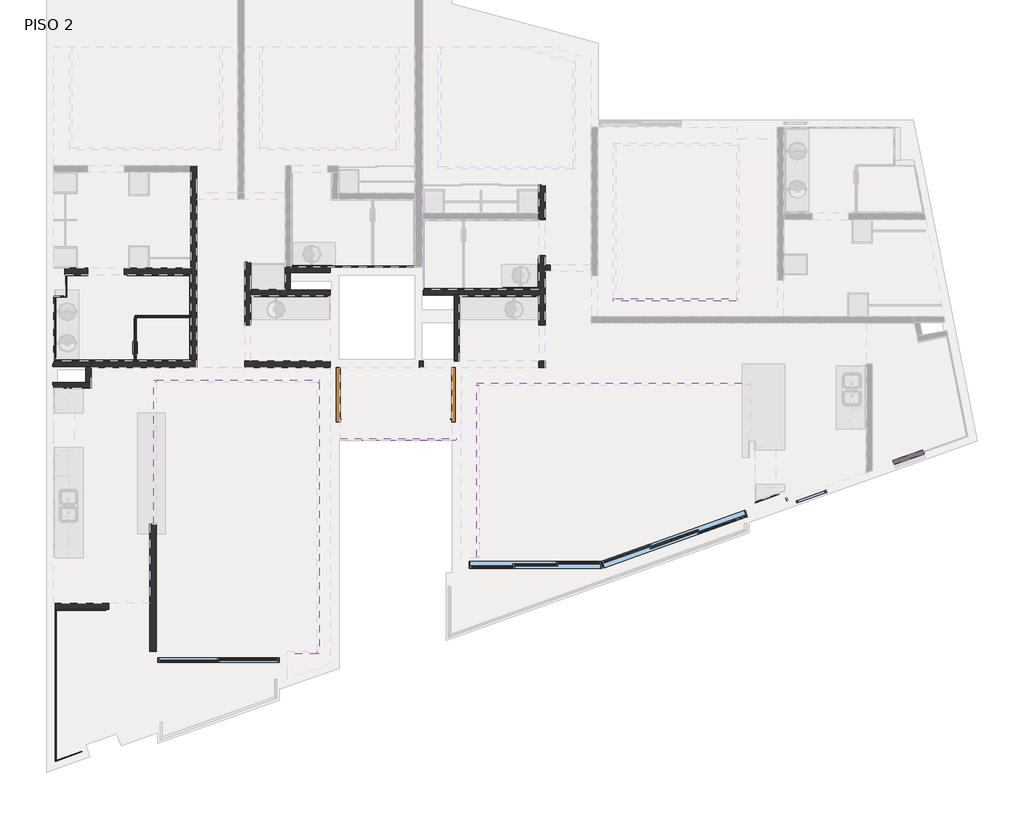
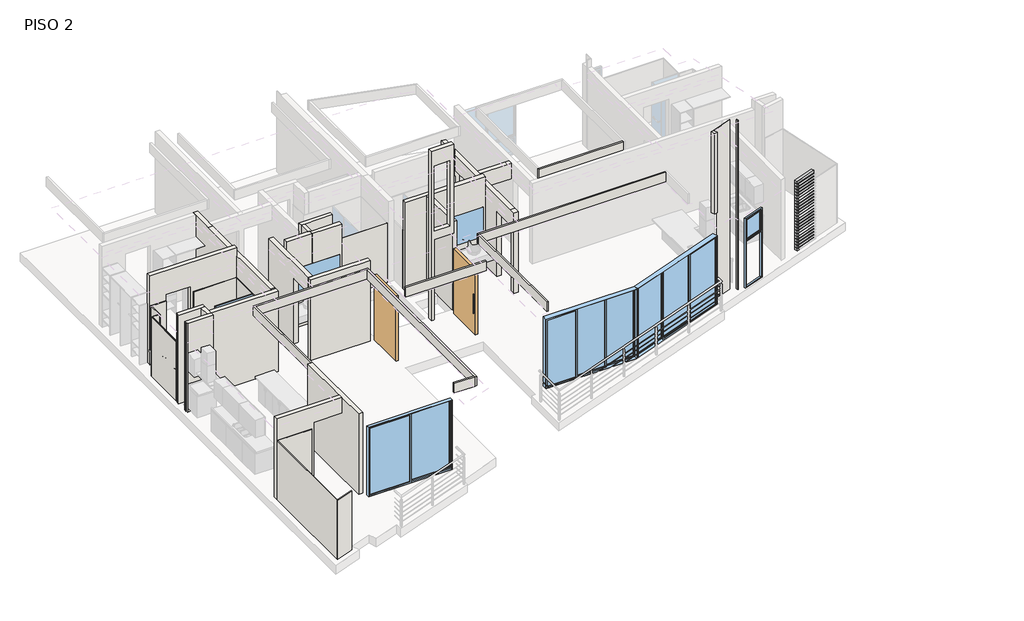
# One storey, part 1 of 3: 45 walls, 24 plates, 11 windows, 2 doors.
"""IFC4 building model written with IfcOpenShell, lengths in millimetres."""

from ifc_helpers import new_model, si_unit, frame, origin, place, context, project, spatial, polyline, outline, extrude, faceted_brep, transform, mapped, element, save
from components import door_120_x_220_cm_1a80d65d, door_120_x_220_cm_c73bc2d5, plate_91745229, window_25a9a49d, window_76b8c877, window_1067b7f7, window_0b8e7a57, window_f6d1640f, window_47e7c2ce, window_0ac24249, window_d0941a12, window_84fe70d5, window_a27440a6, window_0328c900

model = new_model("IFC4")

# Units and contexts
model_context = context("Model", 3, world=origin())
ifc_project = project(units=[si_unit("LENGTHUNIT", "METRE", prefix="MILLI")], contexts=[model_context])

# Site, building, storey
site = spatial("IfcSite", under=ifc_project)
building = spatial("IfcBuilding", under=site)
storey = spatial("IfcBuildingStorey", under=building, Name="PISO 2", Elevation=6000.0)

# Doors
placement = place(None, origin())
door_120_x_220_cm_shape = door_120_x_220_cm_1a80d65d(model_context)
element("IfcDoor", 1, ObjectType="PUERTA ACCESO_PIVOT : 120 x 220 cm", at=placement, inside=storey, context=model_context, shape_type="MappedRepresentation", body=[
    mapped(door_120_x_220_cm_shape, transform((40339.5059119, 28707.1436004, 6000.0), x_axis=(0.0, 1.0, 0.0), y_axis=(-1.0, 0.0, 0.0), z_axis=(0.0, 0.0, 1.0))),
])
door_120_x_220_cm_2_shape = door_120_x_220_cm_c73bc2d5(model_context)
element("IfcDoor", 2, ObjectType="PUERTA ACCESO_PIVOT : 120 x 220 cm", at=placement, inside=storey, context=model_context, shape_type="MappedRepresentation", body=[
    mapped(door_120_x_220_cm_2_shape, transform((43004.5059119, 28707.1436004, 6000.0), x_axis=(0.0, 1.0, 0.0), y_axis=(-1.0, 0.0, 0.0), z_axis=(0.0, 0.0, 1.0))),
])

# Plates
plate_shape = plate_91745229(model_context)
element("IfcPlate", 3, ObjectType="Panel del sistema vacío : Vacío", at=placement, inside=storey, context=model_context, shape_type="MappedRepresentation", body=[
    mapped(plate_shape, transform((52990.0311866, 27653.021671, 6000.0), x_axis=(0.9419771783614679, 0.3356769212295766, 0.0), y_axis=(-0.3356769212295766, 0.9419771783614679, 0.0), z_axis=(0.0, 0.0, 1.0))),
])
element("IfcPlate", 4, ObjectType="Panel del sistema vacío : Vacío", at=placement, inside=storey, context=model_context, shape_type="MappedRepresentation", body=[
    mapped(plate_shape, transform((52990.0311866, 27653.021671, 6098.5416667), x_axis=(0.9419771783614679, 0.3356769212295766, 0.0), y_axis=(-0.3356769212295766, 0.9419771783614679, 0.0), z_axis=(0.0, 0.0, 1.0))),
])
element("IfcPlate", 5, ObjectType="Panel del sistema vacío : Vacío", at=placement, inside=storey, context=model_context, shape_type="MappedRepresentation", body=[
    mapped(plate_shape, transform((52990.0311866, 27653.021671, 6197.0833333), x_axis=(0.9419771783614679, 0.3356769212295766, 0.0), y_axis=(-0.3356769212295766, 0.9419771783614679, 0.0), z_axis=(0.0, 0.0, 1.0))),
])
element("IfcPlate", 6, ObjectType="Panel del sistema vacío : Vacío", at=placement, inside=storey, context=model_context, shape_type="MappedRepresentation", body=[
    mapped(plate_shape, transform((52990.0311866, 27653.021671, 6295.625), x_axis=(0.9419771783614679, 0.3356769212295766, 0.0), y_axis=(-0.3356769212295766, 0.9419771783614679, 0.0), z_axis=(0.0, 0.0, 1.0))),
])
element("IfcPlate", 7, ObjectType="Panel del sistema vacío : Vacío", at=placement, inside=storey, context=model_context, shape_type="MappedRepresentation", body=[
    mapped(plate_shape, transform((52990.0311866, 27653.021671, 6394.1666667), x_axis=(0.9419771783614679, 0.3356769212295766, 0.0), y_axis=(-0.3356769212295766, 0.9419771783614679, 0.0), z_axis=(0.0, 0.0, 1.0))),
])
element("IfcPlate", 8, ObjectType="Panel del sistema vacío : Vacío", at=placement, inside=storey, context=model_context, shape_type="MappedRepresentation", body=[
    mapped(plate_shape, transform((52990.0311866, 27653.021671, 6492.7083333), x_axis=(0.9419771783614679, 0.3356769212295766, 0.0), y_axis=(-0.3356769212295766, 0.9419771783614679, 0.0), z_axis=(0.0, 0.0, 1.0))),
])
element("IfcPlate", 9, ObjectType="Panel del sistema vacío : Vacío", at=placement, inside=storey, context=model_context, shape_type="MappedRepresentation", body=[
    mapped(plate_shape, transform((52990.0311866, 27653.021671, 6591.25), x_axis=(0.9419771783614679, 0.3356769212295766, 0.0), y_axis=(-0.3356769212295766, 0.9419771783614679, 0.0), z_axis=(0.0, 0.0, 1.0))),
])
element("IfcPlate", 10, ObjectType="Panel del sistema vacío : Vacío", at=placement, inside=storey, context=model_context, shape_type="MappedRepresentation", body=[
    mapped(plate_shape, transform((52990.0311866, 27653.021671, 6689.7916667), x_axis=(0.9419771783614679, 0.3356769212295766, 0.0), y_axis=(-0.3356769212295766, 0.9419771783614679, 0.0), z_axis=(0.0, 0.0, 1.0))),
])
element("IfcPlate", 11, ObjectType="Panel del sistema vacío : Vacío", at=placement, inside=storey, context=model_context, shape_type="MappedRepresentation", body=[
    mapped(plate_shape, transform((52990.0311866, 27653.021671, 6788.3333333), x_axis=(0.9419771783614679, 0.3356769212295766, 0.0), y_axis=(-0.3356769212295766, 0.9419771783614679, 0.0), z_axis=(0.0, 0.0, 1.0))),
])
element("IfcPlate", 12, ObjectType="Panel del sistema vacío : Vacío", at=placement, inside=storey, context=model_context, shape_type="MappedRepresentation", body=[
    mapped(plate_shape, transform((52990.0311866, 27653.021671, 6886.875), x_axis=(0.9419771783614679, 0.3356769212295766, 0.0), y_axis=(-0.3356769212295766, 0.9419771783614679, 0.0), z_axis=(0.0, 0.0, 1.0))),
])
element("IfcPlate", 13, ObjectType="Panel del sistema vacío : Vacío", at=placement, inside=storey, context=model_context, shape_type="MappedRepresentation", body=[
    mapped(plate_shape, transform((52990.0311866, 27653.021671, 6985.4166667), x_axis=(0.9419771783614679, 0.3356769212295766, 0.0), y_axis=(-0.3356769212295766, 0.9419771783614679, 0.0), z_axis=(0.0, 0.0, 1.0))),
])
element("IfcPlate", 14, ObjectType="Panel del sistema vacío : Vacío", at=placement, inside=storey, context=model_context, shape_type="MappedRepresentation", body=[
    mapped(plate_shape, transform((52990.0311866, 27653.021671, 7083.9583333), x_axis=(0.9419771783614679, 0.3356769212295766, 0.0), y_axis=(-0.3356769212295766, 0.9419771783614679, 0.0), z_axis=(0.0, 0.0, 1.0))),
])
element("IfcPlate", 15, ObjectType="Panel del sistema vacío : Vacío", at=placement, inside=storey, context=model_context, shape_type="MappedRepresentation", body=[
    mapped(plate_shape, transform((52990.0311866, 27653.021671, 7182.5), x_axis=(0.9419771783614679, 0.3356769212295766, 0.0), y_axis=(-0.3356769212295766, 0.9419771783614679, 0.0), z_axis=(0.0, 0.0, 1.0))),
])
element("IfcPlate", 16, ObjectType="Panel del sistema vacío : Vacío", at=placement, inside=storey, context=model_context, shape_type="MappedRepresentation", body=[
    mapped(plate_shape, transform((52990.0311866, 27653.021671, 7281.0416667), x_axis=(0.9419771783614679, 0.3356769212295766, 0.0), y_axis=(-0.3356769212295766, 0.9419771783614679, 0.0), z_axis=(0.0, 0.0, 1.0))),
])
element("IfcPlate", 17, ObjectType="Panel del sistema vacío : Vacío", at=placement, inside=storey, context=model_context, shape_type="MappedRepresentation", body=[
    mapped(plate_shape, transform((52990.0311866, 27653.021671, 7379.5833333), x_axis=(0.9419771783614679, 0.3356769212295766, 0.0), y_axis=(-0.3356769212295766, 0.9419771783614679, 0.0), z_axis=(0.0, 0.0, 1.0))),
])
element("IfcPlate", 18, ObjectType="Panel del sistema vacío : Vacío", at=placement, inside=storey, context=model_context, shape_type="MappedRepresentation", body=[
    mapped(plate_shape, transform((52990.0311866, 27653.021671, 7478.125), x_axis=(0.9419771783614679, 0.3356769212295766, 0.0), y_axis=(-0.3356769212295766, 0.9419771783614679, 0.0), z_axis=(0.0, 0.0, 1.0))),
])
element("IfcPlate", 19, ObjectType="Panel del sistema vacío : Vacío", at=placement, inside=storey, context=model_context, shape_type="MappedRepresentation", body=[
    mapped(plate_shape, transform((52990.0311866, 27653.021671, 7576.6666667), x_axis=(0.9419771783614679, 0.3356769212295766, 0.0), y_axis=(-0.3356769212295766, 0.9419771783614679, 0.0), z_axis=(0.0, 0.0, 1.0))),
])
element("IfcPlate", 20, ObjectType="Panel del sistema vacío : Vacío", at=placement, inside=storey, context=model_context, shape_type="MappedRepresentation", body=[
    mapped(plate_shape, transform((52990.0311866, 27653.021671, 7675.2083333), x_axis=(0.9419771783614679, 0.3356769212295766, 0.0), y_axis=(-0.3356769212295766, 0.9419771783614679, 0.0), z_axis=(0.0, 0.0, 1.0))),
])
element("IfcPlate", 21, ObjectType="Panel del sistema vacío : Vacío", at=placement, inside=storey, context=model_context, shape_type="MappedRepresentation", body=[
    mapped(plate_shape, transform((52990.0311866, 27653.021671, 7773.75), x_axis=(0.9419771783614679, 0.3356769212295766, 0.0), y_axis=(-0.3356769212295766, 0.9419771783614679, 0.0), z_axis=(0.0, 0.0, 1.0))),
])
element("IfcPlate", 22, ObjectType="Panel del sistema vacío : Vacío", at=placement, inside=storey, context=model_context, shape_type="MappedRepresentation", body=[
    mapped(plate_shape, transform((52990.0311866, 27653.021671, 7872.2916667), x_axis=(0.9419771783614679, 0.3356769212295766, 0.0), y_axis=(-0.3356769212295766, 0.9419771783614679, 0.0), z_axis=(0.0, 0.0, 1.0))),
])
element("IfcPlate", 23, ObjectType="Panel del sistema vacío : Vacío", at=placement, inside=storey, context=model_context, shape_type="MappedRepresentation", body=[
    mapped(plate_shape, transform((52990.0311866, 27653.021671, 7970.8333333), x_axis=(0.9419771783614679, 0.3356769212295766, 0.0), y_axis=(-0.3356769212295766, 0.9419771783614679, 0.0), z_axis=(0.0, 0.0, 1.0))),
])
element("IfcPlate", 24, ObjectType="Panel del sistema vacío : Vacío", at=placement, inside=storey, context=model_context, shape_type="MappedRepresentation", body=[
    mapped(plate_shape, transform((52990.0311866, 27653.021671, 8069.375), x_axis=(0.9419771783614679, 0.3356769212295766, 0.0), y_axis=(-0.3356769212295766, 0.9419771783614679, 0.0), z_axis=(0.0, 0.0, 1.0))),
])
element("IfcPlate", 25, ObjectType="Panel del sistema vacío : Vacío", at=placement, inside=storey, context=model_context, shape_type="MappedRepresentation", body=[
    mapped(plate_shape, transform((52990.0311866, 27653.021671, 8167.9166667), x_axis=(0.9419771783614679, 0.3356769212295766, 0.0), y_axis=(-0.3356769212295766, 0.9419771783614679, 0.0), z_axis=(0.0, 0.0, 1.0))),
])
element("IfcPlate", 26, ObjectType="Panel del sistema vacío : Vacío", at=placement, inside=storey, context=model_context, shape_type="MappedRepresentation", body=[
    mapped(plate_shape, transform((52990.0311866, 27653.021671, 8266.4583333), x_axis=(0.9419771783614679, 0.3356769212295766, 0.0), y_axis=(-0.3356769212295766, 0.9419771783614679, 0.0), z_axis=(0.0, 0.0, 1.0))),
])

# Walls
element("IfcWall", 27, ObjectType="Muro block 12cms_int_ductos", at=placement, inside=storey, context=model_context, shape_type="Brep", body=[
    faceted_brep([(42279.5059119, 31324.0104755, 6000.0), (42954.5059119, 31324.0104755, 6000.0), (43074.5059119, 31324.0104755, 6000.0), (43074.5059119, 31324.0104755, 9000.0), (42954.5059119, 31324.0104755, 9000.0), (42279.5059119, 31324.0104755, 9000.0), (42279.5059119, 31444.0104755, 6000.0), (42279.5059119, 31444.0104755, 9000.0), (43074.5059119, 31444.0104755, 9000.0), (43074.5059119, 31444.0104755, 6000.0)], [[[0, 1, 2, 3, 4, 5]], [[6, 7, 8, 9]], [[2, 1, 0, 6, 9]], [[5, 4, 3, 8, 7]], [[3, 2, 9, 8]], [[0, 5, 7, 6]]]),
])
element("IfcWall", 28, ObjectType="Muro block 12cms_int_ductos", at=placement, inside=storey, context=model_context, shape_type="Brep", body=[
    faceted_brep([(43074.5059119, 29864.010184, 6000.0), (43074.5059119, 31304.0104755, 6000.0), (43074.5059119, 31324.0104755, 6000.0), (43074.5059119, 31324.0104755, 9000.0), (43074.5059119, 31304.0104755, 9000.0), (43074.5059119, 29864.010184, 9000.0), (42954.5059119, 29864.010184, 6000.0), (42954.5059119, 29864.010184, 9000.0), (42954.5059119, 31324.0104755, 9000.0), (42954.5059119, 31324.0104755, 6000.0)], [[[0, 1, 2, 3, 4, 5]], [[6, 7, 8, 9]], [[2, 1, 0, 6, 9]], [[5, 4, 3, 8, 7]], [[0, 5, 7, 6]], [[3, 2, 9, 8]]]),
])
element("IfcWall", 29, ObjectType="Muro block 12cms_int_ductos", at=placement, inside=storey, context=model_context, shape_type="Brep", body=[
    faceted_brep([(39234.5300226, 31813.9733508, 6000.0), (39354.5300226, 31813.9733508, 6000.0), (40234.5059119, 31813.9733508, 6000.0), (40234.5059119, 31813.9733508, 9000.0), (39354.5300226, 31813.9733508, 9000.0), (39234.5300226, 31813.9733508, 9000.0), (39234.5300226, 31933.9733508, 6000.0), (39234.5300226, 31933.9733508, 8720.0), (39234.5300226, 31933.9733508, 9000.0), (40234.5059119, 31933.9733508, 9000.0), (40234.5059119, 31933.9733508, 6000.0), (39374.5300226, 31933.9733508, 6000.0)], [[[0, 1, 2, 3, 4, 5]], [[6, 7, 8, 9, 10, 11]], [[2, 1, 0, 6, 11, 10]], [[5, 4, 3, 9, 8]], [[0, 5, 8, 7, 6]], [[3, 2, 10, 9]]]),
])
element("IfcWall", 30, ObjectType="Muro block 12cms_int_ductos", at=placement, inside=storey, context=model_context, shape_type="Brep", body=[
    faceted_brep([(39294.5300226, 31304.0104769, 6000.0), (40234.5059119, 31304.0104769, 6000.0), (40234.5059119, 31304.0104769, 9000.0), (39294.5300226, 31304.0104769, 9000.0), (39294.5300226, 31424.0104769, 6000.0), (39294.5300226, 31424.0104769, 9000.0), (39354.5300226, 31424.0104769, 9000.0), (40234.5059119, 31424.0104769, 9000.0), (40234.5059119, 31424.0104769, 6000.0), (39354.5300226, 31424.0104769, 6000.0)], [[[0, 1, 2, 3]], [[4, 5, 6, 7, 8, 9]], [[1, 0, 4, 9, 8]], [[3, 2, 7, 6, 5]], [[0, 3, 5, 4]], [[2, 1, 8, 7]]]),
])
element("IfcWall", 31, ObjectType="Muro block 12cms_int_ductos", at=placement, inside=storey, context=model_context, shape_type="Brep", body=[
    faceted_brep([(34123.8589874, 29744.010184, 9000.0), (34843.8589874, 29744.010184, 9000.0), (34963.8589874, 29744.010184, 9000.0), (34963.8589874, 29864.010184, 9000.0), (34143.8589874, 29864.010184, 9000.0), (34143.8589874, 29804.010184, 9000.0), (34123.8589874, 29804.010184, 9000.0), (34123.8589874, 29744.010184, 6000.0), (34843.8589874, 29744.010184, 6000.0), (34963.8589874, 29744.010184, 6000.0), (34143.8589874, 29864.010184, 6000.0), (34963.8589874, 29864.010184, 8720.0), (34963.8589874, 29864.010184, 6000.0), (34123.8589874, 29804.010184, 6000.0), (34143.8589874, 29804.010184, 6000.0), (34143.8589874, 29804.010184, 8720.0)], [[[0, 1, 2, 3, 4, 5, 6]], [[0, 7, 8, 9, 2, 1]], [[10, 4, 3, 11, 12]], [[9, 8, 7, 13, 14, 10, 12]], [[9, 12, 11, 3, 2]], [[6, 5, 15, 14, 13]], [[14, 15, 5, 4, 10]], [[0, 6, 13, 7]]]),
])
element("IfcWall", 32, ObjectType="Muro block 12cms_int_ductos", at=placement, inside=storey, context=model_context, shape_type="Brep", body=[
    faceted_brep([(34143.8589874, 29274.010184, 9000.0), (34963.8589874, 29274.010184, 9000.0), (34963.8589874, 29394.010184, 9000.0), (34843.8589874, 29394.010184, 9000.0), (34123.8589874, 29394.010184, 9000.0), (34123.8589874, 29334.010184, 9000.0), (34143.8589874, 29334.010184, 9000.0), (34143.8589874, 29274.010184, 6000.0), (34963.8589874, 29274.010184, 6000.0), (34123.8589874, 29394.010184, 6000.0), (34963.8589874, 29394.010184, 6000.0), (34843.8589874, 29394.010184, 6000.0), (34143.8589874, 29334.010184, 6000.0), (34123.8589874, 29334.010184, 6000.0)], [[[0, 1, 2, 3, 4, 5, 6]], [[7, 8, 1, 0]], [[9, 4, 3, 2, 10, 11]], [[8, 7, 12, 13, 9, 11, 10]], [[1, 8, 10, 2]], [[7, 0, 6, 12]], [[6, 5, 13, 12]], [[5, 4, 9, 13]]]),
])
element("IfcWall", 33, ObjectType="Muro block 12cms_int_ductos", at=placement, inside=storey, context=model_context, shape_type="Brep", body=[
    faceted_brep([(34963.8589874, 29394.010184, 6000.0), (34963.8589874, 29724.010184, 6000.0), (34963.8589874, 29744.010184, 6000.0), (34963.8589874, 29744.010184, 9000.0), (34963.8589874, 29394.010184, 9000.0), (34843.8589874, 29394.010184, 6000.0), (34843.8589874, 29394.010184, 9000.0), (34843.8589874, 29744.010184, 9000.0), (34843.8589874, 29744.010184, 6000.0)], [[[0, 1, 2, 3, 4]], [[5, 6, 7, 8]], [[2, 1, 0, 5, 8]], [[4, 3, 7, 6]], [[2, 8, 7, 3]], [[0, 4, 6, 5]]]),
])
element("IfcWall", 34, ObjectType="Muro block 12cms_int_ductos", at=placement, inside=storey, context=model_context, shape_type="SweptSolid", body=[
    extrude(outline(polyline([(39354.5300226, 31813.9733508), (39354.5300226, 31424.0104769), (39294.5300226, 31424.0104769), (39294.5300226, 31444.0104769), (39234.5300226, 31444.0104769), (39234.5300226, 31813.9733508), (39354.5300226, 31813.9733508)])), frame((0.0, 0.0, 6000.0), z_axis=(0.0, 0.0, 1.0), x_axis=(1.0, 0.0, 0.0)), (0.0, 0.0, 1.0), 3000.0),
])
element("IfcWall", 35, ObjectType="Cerámica baño", at=placement, inside=storey, context=model_context, shape_type="Brep", body=[
    faceted_brep([(42064.5059119, 31953.9733508, 6000.0), (39394.5300226, 31953.9733508, 6000.0), (39374.5300226, 31953.9733508, 6000.0), (39374.5300226, 31953.9733508, 8000.0), (39394.5300226, 31953.9733508, 8000.0), (42064.5059119, 31953.9733508, 8000.0), (42064.5059119, 31933.9733508, 6000.0), (42064.5059119, 31933.9733508, 8000.0), (39374.5300226, 31933.9733508, 8000.0), (39374.5300226, 31933.9733508, 6000.0)], [[[0, 1, 2, 3, 4, 5]], [[6, 7, 8, 9]], [[2, 1, 0, 6, 9]], [[5, 4, 3, 8, 7]], [[0, 5, 7, 6]], [[3, 2, 9, 8]]]),
])
element("IfcWall", 36, ObjectType="Cerámica baño", at=placement, inside=storey, context=model_context, shape_type="Brep", body=[
    faceted_brep([(44824.5251366, 31464.0104754, 6000.0), (44804.5251366, 31464.0104754, 6000.0), (42299.5059119, 31464.0104754, 6000.0), (42279.5059119, 31464.0104754, 6000.0), (42279.5059119, 31464.0104754, 8000.0), (42299.5059119, 31464.0104754, 8000.0), (44804.5251366, 31464.0104754, 8000.0), (44824.5251366, 31464.0104754, 8000.0), (44824.5251366, 31444.0104754, 6000.0), (44824.5251366, 31444.0104754, 8000.0), (42279.5059119, 31444.0104754, 8000.0), (42279.5059119, 31444.0104754, 6000.0)], [[[0, 1, 2, 3, 4, 5, 6, 7]], [[8, 9, 10, 11]], [[3, 2, 1, 0, 8, 11]], [[7, 6, 5, 4, 10, 9]], [[4, 3, 11, 10]], [[0, 7, 9, 8]]]),
])
element("IfcWall", 37, ObjectType="Cerámica baño", at=placement, inside=storey, context=model_context, shape_type="Brep", body=[
    faceted_brep([(34143.8589874, 29864.010184, 6000.0), (37154.5300226, 29864.010184, 6000.0), (37154.5300226, 29864.010184, 8000.0), (34143.8589874, 29864.010184, 8000.0), (34143.8589874, 29884.010184, 6000.0), (34143.8589874, 29884.010184, 8000.0), (34163.8589874, 29884.010184, 8000.0), (37134.5300226, 29884.010184, 8000.0), (37154.5300226, 29884.010184, 8000.0), (37154.5300226, 29884.010184, 6000.0), (37134.5300226, 29884.010184, 6000.0), (34163.8589874, 29884.010184, 6000.0)], [[[0, 1, 2, 3]], [[4, 5, 6, 7, 8, 9, 10, 11]], [[1, 0, 4, 11, 10, 9]], [[3, 2, 8, 7, 6, 5]], [[2, 1, 9, 8]], [[0, 3, 5, 4]]]),
])
element("IfcWall", 38, ObjectType="Cerámica baño", at=placement, inside=storey, context=model_context, shape_type="Brep", body=[
    faceted_brep([(37154.5300226, 29884.010184, 6000.0), (37154.5300226, 31768.9733508, 6000.0), (37154.5300226, 31768.9733508, 8000.0), (37154.5300226, 29884.010184, 8000.0), (37134.5300226, 29884.010184, 6000.0), (37134.5300226, 29884.010184, 8000.0), (37134.5300226, 31748.9733508, 8000.0), (37134.5300226, 31768.9733508, 8000.0), (37134.5300226, 31768.9733508, 6000.0), (37134.5300226, 31748.9733508, 6000.0)], [[[0, 1, 2, 3]], [[4, 5, 6, 7, 8, 9]], [[1, 0, 4, 9, 8]], [[3, 2, 7, 6, 5]], [[2, 1, 8, 7]], [[0, 3, 5, 4]]]),
])
element("IfcWall", 39, ObjectType="Cerámica baño", at=placement, inside=storey, context=model_context, shape_type="SweptSolid", body=[
    extrude(outline(polyline([(35764.5300226, 31768.9733508), (37134.5300226, 31768.9733508), (37134.5300226, 31748.9733508), (35764.5300226, 31748.9733508), (35764.5300226, 31768.9733508)])), frame((0.0, 0.0, 6000.0), z_axis=(0.0, 0.0, 1.0), x_axis=(1.0, 0.0, 0.0)), (0.0, 0.0, 1.0), 2000.0),
])
element("IfcWall", 40, ObjectType="Cerámica baño", at=placement, inside=storey, context=model_context, shape_type="Brep", body=[
    faceted_brep([(34894.5300226, 31768.9733508, 6000.0), (34403.8589874, 31768.9733508, 6000.0), (34403.8589874, 31768.9733508, 8000.0), (34894.5300226, 31768.9733508, 8000.0), (34894.5300226, 31748.9733508, 6000.0), (34894.5300226, 31748.9733508, 8000.0), (34423.8589874, 31748.9733508, 8000.0), (34403.8589874, 31748.9733508, 8000.0), (34403.8589874, 31748.9733508, 6000.0), (34423.8589874, 31748.9733508, 6000.0)], [[[0, 1, 2, 3]], [[4, 5, 6, 7, 8, 9]], [[1, 0, 4, 9, 8]], [[3, 2, 7, 6, 5]], [[0, 3, 5, 4]], [[2, 1, 8, 7]]]),
])
element("IfcWall", 41, ObjectType="Cerámica baño", at=placement, inside=storey, context=model_context, shape_type="Brep", body=[
    faceted_brep([(34403.8589874, 31748.9733508, 6000.0), (34403.8589874, 31293.9733508, 6000.0), (34403.8589874, 31273.9733508, 6000.0), (34403.8589874, 31273.9733508, 8000.0), (34403.8589874, 31293.9733508, 8000.0), (34403.8589874, 31748.9733508, 8000.0), (34423.8589874, 31748.9733508, 6000.0), (34423.8589874, 31748.9733508, 8000.0), (34423.8589874, 31273.9733508, 8000.0), (34423.8589874, 31273.9733508, 6000.0)], [[[0, 1, 2, 3, 4, 5]], [[6, 7, 8, 9]], [[2, 1, 0, 6, 9]], [[5, 4, 3, 8, 7]], [[3, 2, 9, 8]], [[0, 5, 7, 6]]]),
])
element("IfcWall", 42, ObjectType="Cerámica baño", at=placement, inside=storey, context=model_context, shape_type="Brep", body=[
    faceted_brep([(34403.8589874, 31293.9733508, 6000.0), (34143.8589874, 31293.9733508, 6000.0), (34143.8589874, 31293.9733508, 8000.0), (34403.8589874, 31293.9733508, 8000.0), (34403.8589874, 31273.9733508, 6000.0), (34403.8589874, 31273.9733508, 8000.0), (34163.8589874, 31273.9733508, 8000.0), (34143.8589874, 31273.9733508, 8000.0), (34143.8589874, 31273.9733508, 6000.0), (34163.8589874, 31273.9733508, 6000.0)], [[[0, 1, 2, 3]], [[4, 5, 6, 7, 8, 9]], [[1, 0, 4, 9, 8]], [[3, 2, 7, 6, 5]], [[0, 3, 5, 4]], [[2, 1, 8, 7]]]),
])
element("IfcWall", 43, ObjectType="Cerámica baño", at=placement, inside=storey, context=model_context, shape_type="SweptSolid", body=[
    extrude(outline(polyline([(44824.5251366, 32124.0104754), (44824.5251366, 31464.0104754), (44804.5251366, 31464.0104754), (44804.5251366, 32124.0104754), (44824.5251366, 32124.0104754)])), frame((0.0, 0.0, 6000.0), z_axis=(0.0, 0.0, 1.0), x_axis=(1.0, 0.0, 0.0)), (0.0, 0.0, 1.0), 2000.0),
])
element("IfcWall", 44, ObjectType="Cerámica baño", at=placement, inside=storey, context=model_context, shape_type="SweptSolid", body=[
    extrude(outline(polyline([(34762.5272081, 21253.1294489), (34194.5300226, 21050.7216296), (34194.5300226, 21071.9535665), (34755.8136696, 21271.9689925), (34762.5272081, 21253.1294489)])), frame((0.0, 0.0, 6000.0), z_axis=(0.0, 0.0, 1.0), x_axis=(1.0, 0.0, 0.0)), (0.0, 0.0, 1.0), 2000.0),
])
element("IfcWall", 45, ObjectType="Cerámica baño", at=placement, inside=storey, context=model_context, shape_type="SweptSolid", body=[
    extrude(outline(polyline([(34163.8589874, 31273.9733508), (34163.8589874, 29884.010184), (34143.8589874, 29884.010184), (34143.8589874, 31273.9733508), (34163.8589874, 31273.9733508)])), frame((0.0, 0.0, 6000.0), z_axis=(0.0, 0.0, 1.0), x_axis=(1.0, 0.0, 0.0)), (0.0, 0.0, 1.0), 2000.0),
])
element("IfcWall", 46, ObjectType="Cerámica baño", at=placement, inside=storey, context=model_context, shape_type="Brep", body=[
    faceted_brep([(34174.5300226, 24392.4819685, 6000.0), (34174.5300226, 21043.5945584, 6000.0), (34174.5300226, 21043.5945584, 8000.0), (34174.5300226, 24392.4819685, 8000.0), (34194.5300226, 24392.4819685, 6000.0), (34194.5300226, 24392.4819685, 8000.0), (34194.5300226, 24372.4819685, 8000.0), (34194.5300226, 21071.9535665, 8000.0), (34194.5300226, 21050.7216296, 8000.0), (34194.5300226, 21050.7216296, 6000.0), (34194.5300226, 21071.9535665, 6000.0), (34194.5300226, 24372.4819685, 6000.0)], [[[0, 1, 2, 3]], [[4, 5, 6, 7, 8, 9, 10, 11]], [[1, 0, 4, 11, 10, 9]], [[3, 2, 8, 7, 6, 5]], [[0, 3, 5, 4]], [[2, 1, 9, 8]]]),
])
element("IfcWall", 47, ObjectType="Cerámica baño", at=placement, inside=storey, context=model_context, shape_type="SweptSolid", body=[
    extrude(outline(polyline([(34194.5300226, 24392.4819685), (35284.5300226, 24392.4819685), (35284.5300226, 24372.4819685), (34194.5300226, 24372.4819685), (34194.5300226, 24392.4819685)])), frame((0.0, 0.0, 6000.0), z_axis=(0.0, 0.0, 1.0), x_axis=(1.0, 0.0, 0.0)), (0.0, 0.0, 1.0), 2000.0),
])
element("IfcWall", 48, ObjectType="Plafond tablaroca", at=placement, inside=storey, context=model_context, shape_type="Brep", body=[
    faceted_brep([(49174.4822189, 31244.0100923, 8402.7), (46514.5059119, 31244.0100923, 8402.7), (46461.8059119, 31244.0100923, 8402.7), (46461.8059119, 31244.0100923, 8720.0), (46514.5059119, 31244.0100923, 8720.0), (49174.4822189, 31244.0100923, 8720.0), (49174.4822189, 31191.3100923, 8402.7), (49174.4822189, 31191.3100923, 8720.0), (46461.8059119, 31191.3100923, 8720.0), (46461.8059119, 31191.3100923, 8402.7)], [[[0, 1, 2, 3, 4, 5]], [[6, 7, 8, 9]], [[0, 5, 7, 6]], [[3, 2, 9, 8]], [[2, 1, 0, 6, 9]], [[5, 4, 3, 8, 7]]]),
])
element("IfcWall", 49, ObjectType="Plafond tablaroca", at=placement, inside=storey, context=model_context, shape_type="SweptSolid", body=[
    extrude(outline(polyline([(43004.5059119, 28111.0432167), (40444.5059119, 28111.0432167), (40444.5059119, 28163.7432167), (43004.5059119, 28163.7432167), (43004.5059119, 28111.0432167)])), frame((0.0, 0.0, 8400.0), z_axis=(0.0, 0.0, 1.0), x_axis=(1.0, 0.0, 0.0)), (0.0, 0.0, 1.0), 320.0),
])
element("IfcWall", 50, ObjectType="Plafond tablaroca", at=placement, inside=storey, context=model_context, shape_type="Brep", body=[
    faceted_brep([(43456.8059119, 29324.010184, 8402.7), (43509.5059119, 29324.010184, 8402.7), (49444.5059119, 29324.010184, 8402.7), (49444.5059119, 29324.010184, 8720.0), (43509.5059119, 29324.010184, 8720.0), (43456.8059119, 29324.010184, 8720.0), (43456.8059119, 29376.710184, 8402.7), (43456.8059119, 29376.710184, 8720.0), (49444.5059119, 29376.710184, 8720.0), (49444.5059119, 29376.710184, 8402.7)], [[[0, 1, 2, 3, 4, 5]], [[6, 7, 8, 9]], [[0, 5, 7, 6]], [[3, 2, 9, 8]], [[2, 1, 0, 6, 9]], [[5, 4, 3, 8, 7]]]),
])
element("IfcWall", 51, ObjectType="Plafond tablaroca", at=placement, inside=storey, context=model_context, shape_type="SweptSolid", body=[
    extrude(outline(polyline([(43509.5059119, 29324.010184), (43509.5059119, 25545.2541962), (43456.8059119, 25545.2541962), (43456.8059119, 29324.010184), (43509.5059119, 29324.010184)])), frame((0.0, 0.0, 8402.7), z_axis=(0.0, 0.0, 1.0), x_axis=(1.0, 0.0, 0.0)), (0.0, 0.0, 1.0), 317.3),
])
element("IfcWall", 52, ObjectType="Plafond tablaroca", at=placement, inside=storey, context=model_context, shape_type="Brep", body=[
    faceted_brep([(36394.5300226, 26269.0176189, 8402.7), (36394.5300226, 29394.010184, 8402.7), (36394.5300226, 29446.710184, 8402.7), (36394.5300226, 29446.710184, 8720.0), (36394.5300226, 29394.010184, 8720.0), (36394.5300226, 26269.0176189, 8720.0), (36341.8300226, 26269.0176189, 8402.7), (36341.8300226, 26269.0176189, 8720.0), (36341.8300226, 29446.710184, 8720.0), (36341.8300226, 29446.710184, 8402.7)], [[[0, 1, 2, 3, 4, 5]], [[6, 7, 8, 9]], [[0, 5, 7, 6]], [[3, 2, 9, 8]], [[2, 1, 0, 6, 9]], [[5, 4, 3, 8, 7]]]),
])
element("IfcWall", 53, ObjectType="Plafond tablaroca", at=placement, inside=storey, context=model_context, shape_type="Brep", body=[
    faceted_brep([(36394.5300226, 29394.010184, 8402.7), (39939.5059119, 29394.010184, 8402.7), (39992.2059119, 29394.010184, 8402.7), (39992.2059119, 29394.010184, 8720.0), (39939.5059119, 29394.010184, 8720.0), (36394.5300226, 29394.010184, 8720.0), (36394.5300226, 29446.710184, 8402.7), (36394.5300226, 29446.710184, 8720.0), (39992.2059119, 29446.710184, 8720.0), (39992.2059119, 29446.710184, 8402.7)], [[[0, 1, 2, 3, 4, 5]], [[6, 7, 8, 9]], [[0, 5, 7, 6]], [[3, 2, 9, 8]], [[2, 1, 0, 6, 9]], [[5, 4, 3, 8, 7]]]),
])
element("IfcWall", 54, ObjectType="Plafond tablaroca", at=placement, inside=storey, context=model_context, shape_type="Brep", body=[
    faceted_brep([(39939.5059119, 29394.010184, 8402.7), (39939.5059119, 23470.9402233, 8402.7), (39939.5059119, 23418.2402233, 8402.7), (39939.5059119, 23418.2402233, 8720.0), (39939.5059119, 23470.9402233, 8720.0), (39939.5059119, 29394.010184, 8720.0), (39992.2059119, 29394.010184, 8402.7), (39992.2059119, 29394.010184, 8720.0), (39992.2059119, 23418.2402233, 8720.0), (39992.2059119, 23418.2402233, 8402.7)], [[[0, 1, 2, 3, 4, 5]], [[6, 7, 8, 9]], [[0, 5, 7, 6]], [[3, 2, 9, 8]], [[2, 1, 0, 6, 9]], [[5, 4, 3, 8, 7]]]),
])
element("IfcWall", 55, ObjectType="Plafond tablaroca", at=placement, inside=storey, context=model_context, shape_type="SweptSolid", body=[
    extrude(outline(polyline([(39284.5057602, 23470.9402233), (39939.5059119, 23470.9402233), (39939.5059119, 23418.2402233), (39284.5057602, 23418.2402233), (39284.5057602, 23470.9402233)])), frame((0.0, 0.0, 8402.7), z_axis=(0.0, 0.0, 1.0), x_axis=(1.0, 0.0, 0.0)), (0.0, 0.0, 1.0), 317.3),
])
element("IfcWall", 56, ObjectType="Muro block 14cms_int", at=placement, inside=storey, context=model_context, shape_type="Brep", body=[
    faceted_brep([(42279.5059119, 29724.010184, 8720.0), (42899.5059119, 29724.010184, 8720.0), (42899.5059119, 29724.010184, 9000.0), (42899.5059119, 29724.010184, 11200.0), (42899.5059119, 29724.010184, 11720.0), (42184.5059119, 29724.010184, 11720.0), (42184.5059119, 29724.010184, 6000.0), (42279.5059119, 29724.010184, 6000.0), (42279.5059119, 29724.010184, 8200.0), (42279.5059119, 29724.010184, 11200.0), (42779.5059119, 29724.010184, 11200.0), (42779.5059119, 29724.010184, 9000.0), (42279.5059119, 29724.010184, 9000.0), (42899.5059119, 29864.010184, 8720.0), (42279.5059119, 29864.010184, 8720.0), (42279.5059119, 29864.010184, 8200.0), (42279.5059119, 29864.010184, 6000.0), (42184.5059119, 29864.010184, 6000.0), (42184.5059119, 29864.010184, 11720.0), (42899.5059119, 29864.010184, 11720.0), (42899.5059119, 29864.010184, 9000.0), (42779.5059119, 29864.010184, 11200.0), (42279.5059119, 29864.010184, 11200.0), (42279.5059119, 29864.010184, 9000.0), (42779.5059119, 29864.010184, 9000.0)], [[[0, 1, 2, 3, 4, 5, 6, 7, 8], [9, 10, 11, 12]], [[13, 14, 15, 16, 17, 18, 19, 20], [21, 22, 23, 24]], [[6, 17, 16, 7]], [[17, 6, 5, 18]], [[10, 9, 22, 21]], [[9, 12, 23, 22]], [[12, 11, 24, 23]], [[11, 10, 21, 24]], [[0, 14, 13, 1]], [[14, 0, 8, 7, 16, 15]], [[1, 13, 20, 19, 4, 3, 2]], [[5, 4, 19, 18]]]),
])
element("IfcWall", 57, ObjectType="Muro block 14cms_int", at=placement, inside=storey, context=model_context, shape_type="SweptSolid", body=[
    extrude(outline(polyline([(6000.0, 35694.5300226), (6000.0, 37154.5300226), (9000.0, 37154.5300226), (9000.0, 34383.8589874), (6000.0, 34383.8589874), (6000.0, 34894.5300226), (8200.0, 34894.5300226), (8200.0, 35694.5300226), (6000.0, 35694.5300226)])), frame((0.0, 31768.9733508, 0.0), z_axis=(0.0, 1.0, 0.0), x_axis=(0.0, 0.0, 1.0)), (0.0, 0.0, 1.0), 140.0),
])
element("IfcWall", 58, ObjectType="Muro block 14cms_int", at=placement, inside=storey, context=model_context, shape_type="Brep", body=[
    faceted_brep([(40234.5059119, 29864.010184, 6000.0), (38344.5059119, 29864.010184, 6000.0), (38344.5059119, 29864.010184, 8200.0), (38344.5059119, 29864.010184, 8720.0), (38484.5059119, 29864.010184, 8720.0), (40234.5059119, 29864.010184, 8720.0), (40234.5059119, 29724.010184, 6000.0), (40234.5059119, 29724.010184, 8720.0), (38344.5059119, 29724.010184, 8720.0), (38344.5059119, 29724.010184, 6000.0)], [[[0, 1, 2, 3, 4, 5]], [[6, 7, 8, 9]], [[1, 0, 6, 9]], [[3, 2, 1, 9, 8]], [[5, 4, 3, 8, 7]], [[0, 5, 7, 6]]]),
])
element("IfcWall", 59, ObjectType="Muro block 14cms_int", at=placement, inside=storey, context=model_context, shape_type="Brep", body=[
    faceted_brep([(38484.5059119, 32044.0104769, 6000.0), (38484.5059119, 32044.0104769, 8720.0), (38484.5059119, 29864.010184, 8720.0), (38484.5059119, 29864.010184, 8200.0), (38484.5059119, 30664.010184, 8200.0), (38484.5059119, 30664.010184, 6000.0), (38484.5059119, 31304.0104769, 6000.0), (38484.5059119, 31444.0104769, 6000.0), (38344.5059119, 32044.0104769, 8720.0), (38344.5059119, 32044.0104769, 6000.0), (38344.5059119, 30664.010184, 6000.0), (38344.5059119, 30664.010184, 8200.0), (38344.5059119, 29864.010184, 8200.0), (38344.5059119, 29864.010184, 8720.0)], [[[0, 1, 2, 3, 4, 5, 6, 7]], [[8, 9, 10, 11, 12, 13]], [[9, 0, 7, 6, 5, 10]], [[1, 0, 9, 8]], [[2, 13, 12, 3]], [[11, 4, 3, 12]], [[4, 11, 10, 5]], [[13, 2, 1, 8]]]),
])
element("IfcWall", 60, ObjectType="Muro block 14cms_int", at=placement, inside=storey, context=model_context, shape_type="Brep", body=[
    faceted_brep([(38484.5059119, 31304.0104769, 6000.0), (39294.5300226, 31304.0104769, 6000.0), (39294.5300226, 31304.0104769, 9000.0), (38484.5059119, 31304.0104769, 9000.0), (38484.5059119, 31444.0104769, 6000.0), (38484.5059119, 31444.0104769, 9000.0), (39234.5300226, 31444.0104769, 9000.0), (39294.5300226, 31444.0104769, 9000.0), (39294.5300226, 31444.0104769, 6000.0), (39234.5300226, 31444.0104769, 6000.0), (39294.5300226, 31424.0104769, 6000.0), (39294.5300226, 31424.0104769, 9000.0)], [[[0, 1, 2, 3]], [[4, 5, 6, 7, 8, 9]], [[1, 0, 4, 9, 8, 10]], [[2, 1, 10, 8, 7, 11]], [[3, 2, 11, 7, 6, 5]], [[0, 3, 5, 4]]]),
])
element("IfcWall", 61, ObjectType="Muro block 14cms_int", at=placement, inside=storey, context=model_context, shape_type="Brep", body=[
    faceted_brep([(44964.5251366, 33744.0113905, 6000.0), (44964.5251366, 33744.0113905, 8720.0), (44964.5251366, 33348.9733508, 8720.0), (44964.5251366, 31984.0100923, 8720.0), (44964.5251366, 31844.0100923, 8720.0), (44964.5251366, 29913.9733508, 8720.0), (44964.5251366, 29724.010184, 8720.0), (44964.5251366, 29724.010184, 6000.0), (44964.5251366, 29864.010184, 6000.0), (44964.5251366, 29864.010184, 8200.0), (44964.5251366, 30664.010184, 8200.0), (44964.5251366, 30664.010184, 6000.0), (44964.5251366, 31844.0100923, 6000.0), (44964.5251366, 31984.0100923, 6000.0), (44964.5251366, 32184.0113856, 6000.0), (44964.5251366, 32184.0113856, 8200.0), (44964.5251366, 32984.0113856, 8200.0), (44964.5251366, 32984.0113856, 6000.0), (44824.5251366, 33744.0113905, 8720.0), (44824.5251366, 33744.0113905, 6000.0), (44824.5251366, 33124.0113856, 6000.0), (44824.5251366, 32984.0113856, 6000.0), (44824.5251366, 32984.0113856, 8200.0), (44824.5251366, 32184.0113856, 8200.0), (44824.5251366, 32184.0113856, 6000.0), (44824.5251366, 31444.0104755, 6000.0), (44824.5251366, 31304.0104755, 6000.0), (44824.5251366, 30664.010184, 6000.0), (44824.5251366, 30664.010184, 8200.0), (44824.5251366, 29864.010184, 8200.0), (44824.5251366, 29864.010184, 6000.0), (44824.5251366, 29724.010184, 6000.0), (44824.5251366, 29724.010184, 8720.0), (44824.5251366, 29864.010184, 8720.0), (44824.5251366, 29913.9733508, 8720.0), (44824.5251366, 33348.9733508, 8720.0)], [[[0, 1, 2, 3, 4, 5, 6, 7, 8, 9, 10, 11, 12, 13, 14, 15, 16, 17]], [[18, 19, 20, 21, 22, 23, 24, 25, 26, 27, 28, 29, 30, 31, 32, 33, 34, 35]], [[19, 0, 17, 21, 20]], [[8, 7, 31, 30]], [[11, 27, 26, 25, 24, 14, 13, 12]], [[1, 0, 19, 18]], [[29, 9, 8, 30]], [[9, 29, 28, 10]], [[10, 28, 27, 11]], [[16, 22, 21, 17]], [[22, 16, 15, 23]], [[23, 15, 14, 24]], [[35, 34, 5, 4, 3, 2]], [[6, 5, 34, 33, 32]], [[2, 1, 18, 35]], [[7, 6, 32, 31]]]),
])
element("IfcWall", 62, ObjectType="Muro block 14cms_int", at=placement, inside=storey, context=model_context, shape_type="Brep", body=[
    faceted_brep([(37294.5300226, 29864.010184, 6000.0), (37294.5300226, 34168.9785701, 6000.0), (37294.5300226, 34168.9785701, 8720.0), (37294.5300226, 33568.9784839, 8720.0), (37294.5300226, 33428.9784839, 8720.0), (37294.5300226, 33348.9733508, 8720.0), (37294.5300226, 29913.9733508, 8720.0), (37294.5300226, 29864.010184, 8720.0), (37154.5300226, 29864.010184, 6000.0), (37154.5300226, 29864.010184, 8720.0), (37154.5300226, 29913.9733508, 8720.0), (37154.5300226, 33348.9733508, 8720.0), (37154.5300226, 34028.9785701, 8720.0), (37154.5300226, 34168.9785701, 8720.0), (37154.5300226, 34168.9785701, 6000.0), (37154.5300226, 34028.9785701, 6000.0), (37154.5300226, 31908.9733508, 6000.0), (37154.5300226, 31768.9733508, 6000.0)], [[[0, 1, 2, 3, 4, 5, 6, 7]], [[8, 9, 10, 11, 12, 13, 14, 15, 16, 17]], [[1, 0, 8, 17, 16, 15, 14]], [[2, 1, 14, 13]], [[0, 7, 9, 8]], [[6, 5, 11, 10]], [[7, 6, 10, 9]], [[5, 4, 3, 2, 13, 12, 11]]]),
])
element("IfcWall", 63, ObjectType="Muro block 14cms_int", at=placement, inside=storey, context=model_context, shape_type="SweptSolid", body=[
    extrude(outline(polyline([(8720.0, 36254.5300226), (8720.0, 34173.8589874), (6000.0, 34173.8589874), (6000.0, 35354.5300226), (8200.0, 35354.5300226), (8200.0, 36254.5300226), (8720.0, 36254.5300226)])), frame((0.0, 24392.4819685, 0.0), z_axis=(0.0, 1.0, 0.0), x_axis=(0.0, 0.0, 1.0)), (0.0, 0.0, 1.0), 140.0),
])
element("IfcWall", 64, ObjectType="Muro block 14cms_int", at=placement, inside=storey, context=model_context, shape_type="Brep", body=[
    faceted_brep([(36394.5300226, 23470.9402233, 6000.0), (36394.5300226, 26269.0176189, 6000.0), (36394.5300226, 26269.0176189, 8720.0), (36394.5300226, 23470.9402233, 8720.0), (36254.5300226, 23470.9402233, 6000.0), (36254.5300226, 23470.9402233, 8720.0), (36254.5300226, 24392.4819685, 8720.0), (36254.5300226, 24532.4819685, 8720.0), (36254.5300226, 26269.0176189, 8720.0), (36254.5300226, 26269.0176189, 6000.0), (36341.8300226, 26269.0176189, 8720.0)], [[[0, 1, 2, 3]], [[4, 5, 6, 7, 8, 9]], [[1, 0, 4, 9]], [[2, 1, 9, 8, 10]], [[3, 2, 10, 8, 7, 6, 5]], [[0, 3, 5, 4]]]),
])
element("IfcWall", 65, ObjectType="Muro block 14cms_int", at=placement, inside=storey, context=model_context, shape_type="Brep", body=[
    faceted_brep([(34963.8589874, 29724.010184, 6000.0), (37294.5300226, 29724.010184, 6000.0), (37294.5300226, 29724.010184, 8720.0), (34963.8589874, 29724.010184, 8720.0), (34963.8589874, 29864.010184, 6000.0), (34963.8589874, 29864.010184, 8720.0), (37154.5300226, 29864.010184, 8720.0), (37294.5300226, 29864.010184, 8720.0), (37294.5300226, 29864.010184, 6000.0), (37154.5300226, 29864.010184, 6000.0), (34963.8589874, 29744.010184, 6000.0)], [[[0, 1, 2, 3]], [[4, 5, 6, 7, 8, 9]], [[1, 0, 10, 4, 9, 8]], [[2, 1, 8, 7]], [[0, 3, 5, 4, 10]], [[3, 2, 7, 6, 5]]]),
])
element("IfcWall", 66, ObjectType="Muro block 14cms_int", at=placement, inside=storey, context=model_context, shape_type="Brep", body=[
    faceted_brep([(43074.5059119, 31304.0104755, 6000.0), (44824.5251366, 31304.0104755, 6000.0), (44824.5251366, 31304.0104755, 9000.0), (43074.5059119, 31304.0104755, 9000.0), (43074.5059119, 31444.0104755, 6000.0), (43074.5059119, 31444.0104755, 9000.0), (44824.5251366, 31444.0104755, 9000.0), (44824.5251366, 31444.0104755, 6000.0), (43074.5059119, 31324.0104755, 6000.0), (43074.5059119, 31324.0104755, 9000.0)], [[[0, 1, 2, 3]], [[4, 5, 6, 7]], [[1, 0, 8, 4, 7]], [[3, 2, 6, 5, 9]], [[2, 1, 7, 6]], [[0, 3, 9, 5, 4, 8]]]),
])
element("IfcWall", 67, ObjectType="Muro block 14cms_int", at=placement, inside=storey, context=model_context, shape_type="Brep", body=[
    faceted_brep([(49410.9382198, 26547.4546448, 11720.0), (49410.9382198, 26547.4546448, 9000.0), (49444.5059119, 26559.4166114, 9000.0), (49504.7871425, 26580.8980425, 9000.0), (49504.7871425, 26580.8980425, 11720.0), (49444.5059119, 26559.4166114, 11720.0), (49363.9434508, 26679.3314497, 9000.0), (49363.9434508, 26679.3314497, 11720.0), (49444.5059119, 26708.0401696, 11720.0), (50098.5317625, 26941.10461, 11720.0), (50098.5317625, 26941.10461, 9000.0), (50098.5317625, 26941.10461, 6000.0), (49584.5059119, 26757.929668, 6000.0), (49584.5059119, 26757.929668, 9000.0), (49444.5059119, 26708.0401696, 9000.0), (50105.2453009, 26922.2650664, 6000.0), (49584.5059119, 26736.6977311, 6000.0), (49584.5059119, 26736.6977311, 9000.0), (49464.5059119, 26693.9353039, 9000.0), (49464.5059119, 26693.9353039, 11720.0), (50105.2453009, 26922.2650664, 11720.0), (50105.2453009, 26922.2650664, 9000.0)], [[[0, 1, 2, 3, 4, 5]], [[6, 7, 8, 9, 10, 11, 12, 13, 14]], [[12, 11, 15, 16]], [[1, 0, 7, 6]], [[6, 14, 13, 17, 18, 3, 2, 1]], [[9, 8, 7, 0, 5, 4, 19, 20]], [[13, 12, 16, 17]], [[18, 19, 4, 3]], [[19, 18, 17, 16, 15, 21, 20]], [[11, 10, 9, 20, 21, 15]]]),
])
element("IfcWall", 68, ObjectType="Muro block 14cms_int", at=placement, inside=storey, context=model_context, shape_type="Brep", body=[
    faceted_brep([(50300.9007209, 26790.2841715, 6000.0), (50277.4033364, 26856.222574, 6000.0), (50277.4033364, 26856.222574, 8720.0), (50277.4033364, 26856.222574, 11720.0), (50300.9007209, 26790.2841715, 11720.0), (50281.8662696, 26783.501177, 6000.0), (50258.3688852, 26849.4395795, 6000.0), (50258.3688852, 26849.4395795, 11720.0), (50281.8662696, 26783.501177, 11720.0), (50258.3688852, 26849.4395795, 8720.0)], [[[0, 1, 2, 3, 4]], [[1, 0, 5, 6]], [[4, 3, 7, 8]], [[0, 4, 8, 5]], [[6, 5, 8, 7, 9]], [[3, 2, 1, 6, 9, 7]]]),
])
element("IfcWall", 69, ObjectType="Muro block 14cms_int", at=placement, inside=storey, context=model_context, shape_type="SweptSolid", body=[
    extrude(outline(polyline([(8720.0, 45834.5059119), (8720.0, 44964.5251366), (6000.0, 44964.5251366), (6000.0, 45074.5059119), (8200.0, 45074.5059119), (8200.0, 45974.5059119), (8720.0, 45974.5059119), (8720.0, 45834.5059119)])), frame((0.0, 31844.0100923, 0.0), z_axis=(0.0, 1.0, 0.0), x_axis=(0.0, 0.0, 1.0)), (0.0, 0.0, 1.0), 140.0),
])
element("IfcWall", 70, ObjectType="sardinel", at=placement, inside=storey, context=model_context, shape_type="SweptSolid", body=[
    extrude(outline(polyline([(35954.5300226, 30809.010184), (35954.5300226, 29884.010184), (35914.5300226, 29884.010184), (35914.5300226, 30809.010184), (35954.5300226, 30809.010184)])), frame((0.0, 0.0, 5980.0), z_axis=(0.0, 0.0, 1.0), x_axis=(1.0, 0.0, 0.0)), (0.0, 0.0, 1.0), 20.0),
])
element("IfcWall", 71, ObjectType="sardinel", at=placement, inside=storey, context=model_context, shape_type="SweptSolid", body=[
    extrude(outline(polyline([(37134.5300226, 30828.9733508), (35934.5300226, 30828.9733508), (35934.5300226, 30868.9733508), (37134.5300226, 30868.9733508), (37134.5300226, 30828.9733508)])), frame((0.0, 0.0, 5980.0), z_axis=(0.0, 0.0, 1.0), x_axis=(1.0, 0.0, 0.0)), (0.0, 0.0, 1.0), 20.0),
])

# Windows
window_shape = window_25a9a49d(model_context)
element("IfcWindow", 72, ObjectType="VENT_ALUM_PROY_ARRIBA : V2-VENT_ALUM_PROY_ARRIBA", at=placement, inside=storey, context=model_context, shape_type="MappedRepresentation", body=[
    mapped(window_shape, transform((50821.6175675, 26880.2997577, 5500.0), x_axis=(0.9419771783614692, 0.33567692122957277, 0.0), y_axis=(-0.33567692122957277, 0.9419771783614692, 0.0), z_axis=(0.0, 0.0, 1.0))),
])
window_2_shape = window_76b8c877(model_context)
element("IfcWindow", 73, ObjectType="VENT_ALUM_CORR_2HOJAS_CORRE 1 : V7-VENT_ALUM_CORR_2HOJAS_CORRE 1", at=placement, inside=storey, context=model_context, shape_type="MappedRepresentation", body=[
    mapped(window_2_shape, transform((37769.5057602, 23275.9402233, 6000.0), x_axis=(1.0, 0.0, 0.0), y_axis=(0.0, 1.0, 0.0), z_axis=(0.0, 0.0, 1.0))),
])
window_3_shape = window_1067b7f7(model_context)
element("IfcWindow", 74, ObjectType="VENT_ALUM_CORR_3HOJAS_CORRE 1 : V9-VENT_ALUM_CORR_3HOJAS_CORRE 1 - SALA PT DER", at=placement, inside=storey, context=model_context, shape_type="MappedRepresentation", body=[
    mapped(window_3_shape, transform((47805.5176665, 25943.5094095, 5200.0), x_axis=(0.9419771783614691, 0.3356769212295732, 0.0), y_axis=(-0.3356769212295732, 0.9419771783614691, 0.0), z_axis=(0.0, 0.0, 1.0))),
])
window_4_shape = window_0b8e7a57(model_context)
element("IfcWindow", 75, ObjectType="VENT_ALUM_CORR_3HOJAS_CORRE 1 : V8-VENT_ALUM_CORR_3HOJAS_CORRE 1 - SALA PT IZQ", at=placement, inside=storey, context=model_context, shape_type="MappedRepresentation", body=[
    mapped(window_4_shape, transform((44747.0059119, 25375.2541962, 5200.0), x_axis=(-1.0, 0.0, 0.0), y_axis=(0.0, -1.0, 0.0), z_axis=(0.0, 0.0, 1.0))),
])
window_5_shape = window_f6d1640f(model_context)
element("IfcWindow", 76, ObjectType="espejo biselado sin marco : ESP2-espejo biselado 90 x 100", at=placement, inside=storey, context=model_context, shape_type="MappedRepresentation", body=[
    mapped(window_5_shape, transform((39834.5300226, 31943.9733508, 7000.0), x_axis=(1.0, 0.0, 0.0), y_axis=(0.0, 1.0, 0.0), z_axis=(0.0, 0.0, 1.0))),
])
window_6_shape = window_47e7c2ce(model_context)
element("IfcWindow", 77, ObjectType="espejo biselado sin marco : ESP1-espejo biselado 77 x 100", at=placement, inside=storey, context=model_context, shape_type="MappedRepresentation", body=[
    mapped(window_6_shape, transform((44424.5251366, 31454.0104754, 7000.0), x_axis=(1.0, 0.0, 0.0), y_axis=(0.0, 1.0, 0.0), z_axis=(0.0, 0.0, 1.0))),
])
window_7_shape = window_0ac24249(model_context)
element("IfcWindow", 78, ObjectType="espejo biselado sin marco : ESP8-espejo biselado 160 x 100", at=placement, inside=storey, context=model_context, shape_type="MappedRepresentation", body=[
    mapped(window_7_shape, transform((43949.5251366, 31374.0104755, 7000.0), x_axis=(-1.0, 0.0, 0.0), y_axis=(0.0, -1.0, 0.0), z_axis=(0.0, 0.0, 1.0))),
])
window_8_shape = window_d0941a12(model_context)
element("IfcWindow", 79, ObjectType="espejo biselado sin marco : ESP7-espejo biselado 130 x 100", at=placement, inside=storey, context=model_context, shape_type="MappedRepresentation", body=[
    mapped(window_8_shape, transform((34153.8589874, 30588.9917674, 7000.0), x_axis=(0.0, -1.0, 0.0), y_axis=(1.0, 0.0, 0.0), z_axis=(0.0, 0.0, 1.0))),
])
window_9_shape = window_84fe70d5(model_context)
element("IfcWindow", 80, ObjectType="espejo biselado sin marco : ESP8-espejo biselado 160 x 100", at=placement, inside=storey, context=model_context, shape_type="MappedRepresentation", body=[
    mapped(window_9_shape, transform((39359.5059119, 31364.0104769, 7000.0), x_axis=(-1.0, 0.0, 0.0), y_axis=(0.0, -1.0, 0.0), z_axis=(0.0, 0.0, 1.0))),
])
window_10_shape = window_a27440a6(model_context)
element("IfcWindow", 81, ObjectType="Baño 1 Fijo simple : CA06b-cancel baño-1 fijo de 1.21", at=placement, inside=storey, context=model_context, shape_type="MappedRepresentation", body=[
    mapped(window_10_shape, transform((36531.7800226, 30848.9733508, 6000.0), x_axis=(1.0, 0.0, 0.0), y_axis=(0.0, 1.0, 0.0), z_axis=(0.0, 0.0, 1.0))),
])
window_11_shape = window_0328c900(model_context)
element("IfcWindow", 82, ObjectType="Baño 1 Puerta lateral - toallero simple : CA06-a-cancel baño-0.96", at=placement, inside=storey, context=model_context, shape_type="MappedRepresentation", body=[
    mapped(window_11_shape, transform((35934.5300226, 30363.760184, 6000.0), x_axis=(0.0, -1.0, 0.0), y_axis=(1.0, 0.0, 0.0), z_axis=(0.0, 0.0, 1.0))),
])

save(model, "model.ifc")
